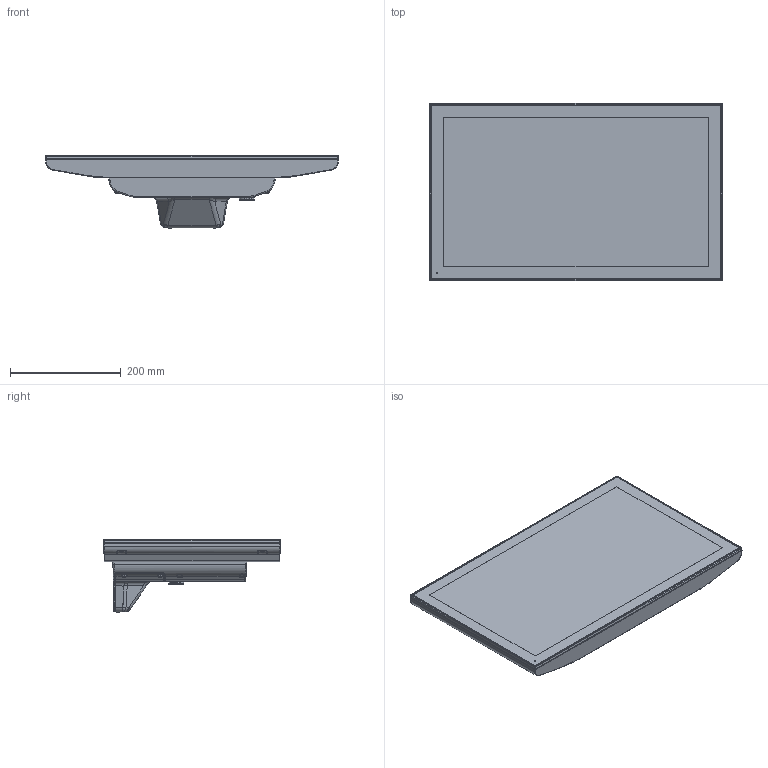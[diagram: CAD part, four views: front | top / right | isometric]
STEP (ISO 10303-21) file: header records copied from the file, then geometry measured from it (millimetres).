
FILE_DESCRIPTION (( 'STEP AP214' ), '1' );
FILE_NAME ('vk3500_mk200_215_top_NO_maniglie_usbpost.STEP', '2022-05-04T15:46:12', ( '' ), ( '' ), 'SwSTEP 2.0', 'SolidWorks 2021', '' );
FILE_SCHEMA (( 'AUTOMOTIVE_DESIGN' ));
Length unit declared in the file: millimetre
Products named in the file (11): kit_posteriore_arm_usb3; 56600541; 56636883; 55600028; 58755018; 57836056_Default<A macchina>; vk3500_mk200_215_top_NO_maniglie_usbpost; 56600624; 50342037; ________________________________________^00_d18201915; 55688012
Assembly tree (12 placements, depth 4):
  vk3500_mk200_215_top_NO_maniglie_usbpost
    56600624
      56600541
        56636883
        50342037
      55600028
        55688012
    57836056_Default<A macchina>
    kit_posteriore_arm_usb3
    58755018  x4
  ________________________________________^00_d18201915
Bounding box: 528.75 x 320.15 x 130.72 mm (x, y, z)
Volume: 1183208.1 mm3; surface area: 1011851.3 mm2
Topology: 16 solids, 48 shells, 3373 faces, 8213 edges, 4996 vertices
Faces by surface type: cylinder 1020, plane 956, cone 646, bspline 516, torus 181, sphere 54
Entity records: 157448 total; most frequent: CARTESIAN_POINT 60004, ORIENTED_EDGE 15416, DIRECTION 14668, EDGE_CURVE 7722, AXIS2_PLACEMENT_3D 5704, VERTEX_POINT 4726, EDGE_LOOP 3496, LINE 3260
